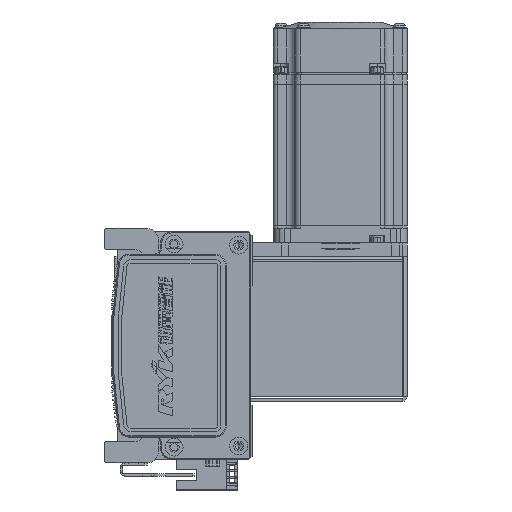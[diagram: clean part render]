
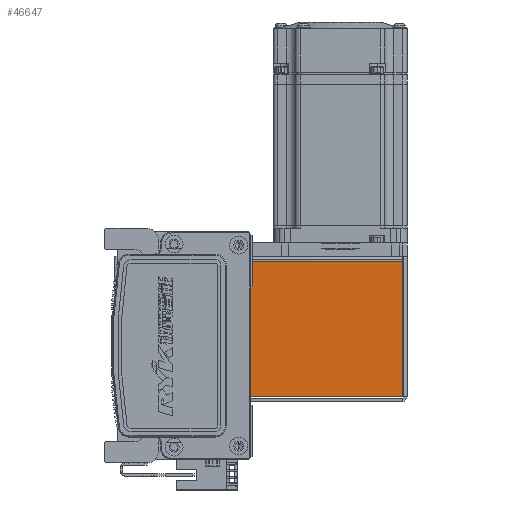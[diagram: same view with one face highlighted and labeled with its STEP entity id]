
A CAD part, left-side view. The second image highlights one B-rep face of the part: STEP entity #46647.
In plain terms, the highlighted planar face has unit normal (-1, 0, 0) as drawn and (0, 0, 1) by its records, which use the part's own axes.
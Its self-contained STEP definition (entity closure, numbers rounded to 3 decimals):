
#2985 = CARTESIAN_POINT ( 'NONE',  ( 0., 0., 35. ) ) ;
#3526 = VECTOR ( 'NONE', #23926, 1000. ) ;
#11033 = EDGE_LOOP ( 'NONE', ( #34342, #69578, #31214, #39285 ) ) ;
#11076 = LINE ( 'NONE', #16018, #25883 ) ;
#12114 = DIRECTION ( 'NONE',  ( 0., 0., -1. ) ) ;
#14262 = EDGE_CURVE ( 'NONE', #28832, #15843, #11076, .T. ) ;
#15843 = VERTEX_POINT ( 'NONE', #45318 ) ;
#16018 = CARTESIAN_POINT ( 'NONE',  ( 0., 72.5, 35. ) ) ;
#18226 = DIRECTION ( 'NONE',  ( -1., 0., 0. ) ) ;
#18481 = LINE ( 'NONE', #57591, #3526 ) ;
#20624 = DIRECTION ( 'NONE',  ( -1., 0., 0. ) ) ;
#21215 = AXIS2_PLACEMENT_3D ( 'NONE', #2985, #12114, #18226 ) ;
#22096 = CARTESIAN_POINT ( 'NONE',  ( -30.293, 0.737, 35. ) ) ;
#22157 = DIRECTION ( 'NONE',  ( -1., 0., 0. ) ) ;
#22947 = DIRECTION ( 'NONE',  ( 0., 1., 0. ) ) ;
#23926 = DIRECTION ( 'NONE',  ( 0., 1., 0. ) ) ;
#25084 = EDGE_CURVE ( 'NONE', #28525, #31026, #48699, .T. ) ;
#25883 = VECTOR ( 'NONE', #20624, 1000. ) ;
#28525 = VERTEX_POINT ( 'NONE', #48728 ) ;
#28832 = VERTEX_POINT ( 'NONE', #58687 ) ;
#31026 = VERTEX_POINT ( 'NONE', #22096 ) ;
#31214 = ORIENTED_EDGE ( 'NONE', *, *, #35915, .F. ) ;
#34342 = ORIENTED_EDGE ( 'NONE', *, *, #53840, .T. ) ;
#35915 = EDGE_CURVE ( 'NONE', #31026, #15843, #52227, .T. ) ;
#39197 = CARTESIAN_POINT ( 'NONE',  ( -32.5, 0.737, 35. ) ) ;
#39285 = ORIENTED_EDGE ( 'NONE', *, *, #25084, .F. ) ;
#40865 = PLANE ( 'NONE',  #21215 ) ;
#44501 = FACE_OUTER_BOUND ( 'NONE', #11033, .T. ) ;
#45318 = CARTESIAN_POINT ( 'NONE',  ( -30.293, 72.5, 35. ) ) ;
#46647 = ADVANCED_FACE ( 'NONE', ( #44501 ), #40865, .F. ) ;
#46937 = VECTOR ( 'NONE', #22947, 1000. ) ;
#48699 = LINE ( 'NONE', #39197, #54797 ) ;
#48728 = CARTESIAN_POINT ( 'NONE',  ( 30.263, 0.737, 35. ) ) ;
#52227 = LINE ( 'NONE', #55583, #46937 ) ;
#53840 = EDGE_CURVE ( 'NONE', #28525, #28832, #18481, .T. ) ;
#54797 = VECTOR ( 'NONE', #22157, 1000. ) ;
#55583 = CARTESIAN_POINT ( 'NONE',  ( -30.293, 0., 35. ) ) ;
#57591 = CARTESIAN_POINT ( 'NONE',  ( 30.263, 0.737, 35. ) ) ;
#58687 = CARTESIAN_POINT ( 'NONE',  ( 30.263, 72.5, 35. ) ) ;
#69578 = ORIENTED_EDGE ( 'NONE', *, *, #14262, .T. ) ;
